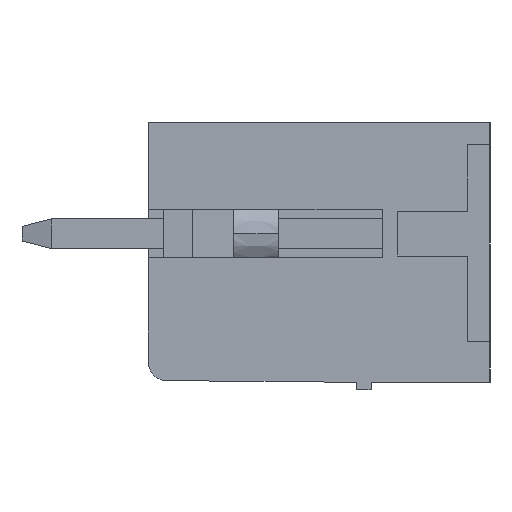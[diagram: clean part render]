
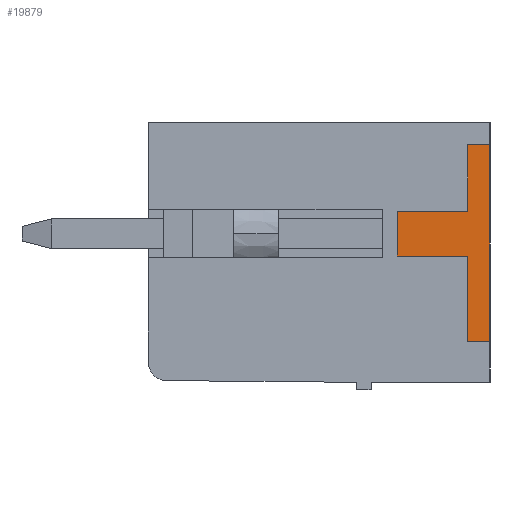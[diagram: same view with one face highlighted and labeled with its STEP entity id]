
A CAD part, left-side view. The second image highlights one B-rep face of the part: STEP entity #19879.
In plain terms, the highlighted planar face has unit normal (-1, 0, 0).
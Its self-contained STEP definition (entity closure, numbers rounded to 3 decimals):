
#156 = PLANE('',#157);
#157 = AXIS2_PLACEMENT_3D('',#158,#159,#160);
#158 = CARTESIAN_POINT('',(0.,0.,7.));
#159 = DIRECTION('',(0.,-1.,0.));
#160 = DIRECTION('',(0.,0.,-1.));
#184 = PLANE('',#185);
#185 = AXIS2_PLACEMENT_3D('',#186,#187,#188);
#186 = CARTESIAN_POINT('',(0.,0.,6.4));
#187 = DIRECTION('',(0.,0.,1.));
#188 = DIRECTION('',(0.,1.,0.));
#212 = PLANE('',#213);
#213 = AXIS2_PLACEMENT_3D('',#214,#215,#216);
#214 = CARTESIAN_POINT('',(0.,0.6,6.4));
#215 = DIRECTION('',(0.,1.,0.));
#216 = DIRECTION('',(0.,0.,-1.));
#240 = PLANE('',#241);
#241 = AXIS2_PLACEMENT_3D('',#242,#243,#244);
#242 = CARTESIAN_POINT('',(0.,0.6,4.6));
#243 = DIRECTION('',(0.,0.,1.));
#244 = DIRECTION('',(0.,1.,0.));
#268 = PLANE('',#269);
#269 = AXIS2_PLACEMENT_3D('',#270,#271,#272);
#270 = CARTESIAN_POINT('',(0.,2.5,4.6));
#271 = DIRECTION('',(0.,1.,0.));
#272 = DIRECTION('',(0.,0.,-1.));
#296 = PLANE('',#297);
#297 = AXIS2_PLACEMENT_3D('',#298,#299,#300);
#298 = CARTESIAN_POINT('',(0.,2.5,3.4));
#299 = DIRECTION('',(0.,0.,-1.));
#300 = DIRECTION('',(0.,-1.,0.));
#324 = PLANE('',#325);
#325 = AXIS2_PLACEMENT_3D('',#326,#327,#328);
#326 = CARTESIAN_POINT('',(0.,0.6,3.4));
#327 = DIRECTION('',(0.,1.,0.));
#328 = DIRECTION('',(0.,0.,-1.));
#352 = PLANE('',#353);
#353 = AXIS2_PLACEMENT_3D('',#354,#355,#356);
#354 = CARTESIAN_POINT('',(0.,0.6,1.1));
#355 = DIRECTION('',(0.,0.,-1.));
#356 = DIRECTION('',(0.,-1.,0.));
#6369 = VERTEX_POINT('',#6370);
#6370 = CARTESIAN_POINT('',(-0.2,0.,1.1));
#6391 = EDGE_CURVE('',#6369,#6392,#6394,.T.);
#6392 = VERTEX_POINT('',#6393);
#6393 = CARTESIAN_POINT('',(-0.2,0.,6.4));
#6394 = SURFACE_CURVE('',#6395,(#6399,#6406),.PCURVE_S1.);
#6395 = LINE('',#6396,#6397);
#6396 = CARTESIAN_POINT('',(-0.2,0.,1.1));
#6397 = VECTOR('',#6398,1.);
#6398 = DIRECTION('',(0.,0.,1.));
#6399 = PCURVE('',#156,#6400);
#6400 = DEFINITIONAL_REPRESENTATION('',(#6401),#6405);
#6401 = LINE('',#6402,#6403);
#6402 = CARTESIAN_POINT('',(5.9,-0.2));
#6403 = VECTOR('',#6404,1.);
#6404 = DIRECTION('',(-1.,0.));
#6405 = ( GEOMETRIC_REPRESENTATION_CONTEXT(2) 
PARAMETRIC_REPRESENTATION_CONTEXT() REPRESENTATION_CONTEXT('2D SPACE',''
  ) );
#6406 = PCURVE('',#6407,#6412);
#6407 = PLANE('',#6408);
#6408 = AXIS2_PLACEMENT_3D('',#6409,#6410,#6411);
#6409 = CARTESIAN_POINT('',(-0.2,0.,0.));
#6410 = DIRECTION('',(-1.,0.,0.));
#6411 = DIRECTION('',(0.,0.,1.));
#6412 = DEFINITIONAL_REPRESENTATION('',(#6413),#6417);
#6413 = LINE('',#6414,#6415);
#6414 = CARTESIAN_POINT('',(1.1,0.));
#6415 = VECTOR('',#6416,1.);
#6416 = DIRECTION('',(1.,0.));
#6417 = ( GEOMETRIC_REPRESENTATION_CONTEXT(2) 
PARAMETRIC_REPRESENTATION_CONTEXT() REPRESENTATION_CONTEXT('2D SPACE',''
  ) );
#19564 = VERTEX_POINT('',#19565);
#19565 = CARTESIAN_POINT('',(-0.2,0.6,1.1));
#19586 = EDGE_CURVE('',#19564,#6369,#19587,.T.);
#19587 = SURFACE_CURVE('',#19588,(#19592,#19599),.PCURVE_S1.);
#19588 = LINE('',#19589,#19590);
#19589 = CARTESIAN_POINT('',(-0.2,0.6,1.1));
#19590 = VECTOR('',#19591,1.);
#19591 = DIRECTION('',(0.,-1.,0.));
#19592 = PCURVE('',#352,#19593);
#19593 = DEFINITIONAL_REPRESENTATION('',(#19594),#19598);
#19594 = LINE('',#19595,#19596);
#19595 = CARTESIAN_POINT('',(0.,0.2));
#19596 = VECTOR('',#19597,1.);
#19597 = DIRECTION('',(1.,0.));
#19598 = ( GEOMETRIC_REPRESENTATION_CONTEXT(2) 
PARAMETRIC_REPRESENTATION_CONTEXT() REPRESENTATION_CONTEXT('2D SPACE',''
  ) );
#19599 = PCURVE('',#6407,#19600);
#19600 = DEFINITIONAL_REPRESENTATION('',(#19601),#19605);
#19601 = LINE('',#19602,#19603);
#19602 = CARTESIAN_POINT('',(1.1,0.6));
#19603 = VECTOR('',#19604,1.);
#19604 = DIRECTION('',(0.,-1.));
#19605 = ( GEOMETRIC_REPRESENTATION_CONTEXT(2) 
PARAMETRIC_REPRESENTATION_CONTEXT() REPRESENTATION_CONTEXT('2D SPACE',''
  ) );
#19613 = VERTEX_POINT('',#19614);
#19614 = CARTESIAN_POINT('',(-0.2,0.6,3.4));
#19635 = EDGE_CURVE('',#19613,#19564,#19636,.T.);
#19636 = SURFACE_CURVE('',#19637,(#19641,#19648),.PCURVE_S1.);
#19637 = LINE('',#19638,#19639);
#19638 = CARTESIAN_POINT('',(-0.2,0.6,3.4));
#19639 = VECTOR('',#19640,1.);
#19640 = DIRECTION('',(0.,0.,-1.));
#19641 = PCURVE('',#324,#19642);
#19642 = DEFINITIONAL_REPRESENTATION('',(#19643),#19647);
#19643 = LINE('',#19644,#19645);
#19644 = CARTESIAN_POINT('',(0.,0.2));
#19645 = VECTOR('',#19646,1.);
#19646 = DIRECTION('',(1.,0.));
#19647 = ( GEOMETRIC_REPRESENTATION_CONTEXT(2) 
PARAMETRIC_REPRESENTATION_CONTEXT() REPRESENTATION_CONTEXT('2D SPACE',''
  ) );
#19648 = PCURVE('',#6407,#19649);
#19649 = DEFINITIONAL_REPRESENTATION('',(#19650),#19654);
#19650 = LINE('',#19651,#19652);
#19651 = CARTESIAN_POINT('',(3.4,0.6));
#19652 = VECTOR('',#19653,1.);
#19653 = DIRECTION('',(-1.,0.));
#19654 = ( GEOMETRIC_REPRESENTATION_CONTEXT(2) 
PARAMETRIC_REPRESENTATION_CONTEXT() REPRESENTATION_CONTEXT('2D SPACE',''
  ) );
#19662 = VERTEX_POINT('',#19663);
#19663 = CARTESIAN_POINT('',(-0.2,2.5,3.4));
#19684 = EDGE_CURVE('',#19662,#19613,#19685,.T.);
#19685 = SURFACE_CURVE('',#19686,(#19690,#19697),.PCURVE_S1.);
#19686 = LINE('',#19687,#19688);
#19687 = CARTESIAN_POINT('',(-0.2,2.5,3.4));
#19688 = VECTOR('',#19689,1.);
#19689 = DIRECTION('',(0.,-1.,0.));
#19690 = PCURVE('',#296,#19691);
#19691 = DEFINITIONAL_REPRESENTATION('',(#19692),#19696);
#19692 = LINE('',#19693,#19694);
#19693 = CARTESIAN_POINT('',(0.,0.2));
#19694 = VECTOR('',#19695,1.);
#19695 = DIRECTION('',(1.,0.));
#19696 = ( GEOMETRIC_REPRESENTATION_CONTEXT(2) 
PARAMETRIC_REPRESENTATION_CONTEXT() REPRESENTATION_CONTEXT('2D SPACE',''
  ) );
#19697 = PCURVE('',#6407,#19698);
#19698 = DEFINITIONAL_REPRESENTATION('',(#19699),#19703);
#19699 = LINE('',#19700,#19701);
#19700 = CARTESIAN_POINT('',(3.4,2.5));
#19701 = VECTOR('',#19702,1.);
#19702 = DIRECTION('',(0.,-1.));
#19703 = ( GEOMETRIC_REPRESENTATION_CONTEXT(2) 
PARAMETRIC_REPRESENTATION_CONTEXT() REPRESENTATION_CONTEXT('2D SPACE',''
  ) );
#19711 = VERTEX_POINT('',#19712);
#19712 = CARTESIAN_POINT('',(-0.2,2.5,4.6));
#19733 = EDGE_CURVE('',#19711,#19662,#19734,.T.);
#19734 = SURFACE_CURVE('',#19735,(#19739,#19746),.PCURVE_S1.);
#19735 = LINE('',#19736,#19737);
#19736 = CARTESIAN_POINT('',(-0.2,2.5,4.6));
#19737 = VECTOR('',#19738,1.);
#19738 = DIRECTION('',(0.,0.,-1.));
#19739 = PCURVE('',#268,#19740);
#19740 = DEFINITIONAL_REPRESENTATION('',(#19741),#19745);
#19741 = LINE('',#19742,#19743);
#19742 = CARTESIAN_POINT('',(0.,0.2));
#19743 = VECTOR('',#19744,1.);
#19744 = DIRECTION('',(1.,0.));
#19745 = ( GEOMETRIC_REPRESENTATION_CONTEXT(2) 
PARAMETRIC_REPRESENTATION_CONTEXT() REPRESENTATION_CONTEXT('2D SPACE',''
  ) );
#19746 = PCURVE('',#6407,#19747);
#19747 = DEFINITIONAL_REPRESENTATION('',(#19748),#19752);
#19748 = LINE('',#19749,#19750);
#19749 = CARTESIAN_POINT('',(4.6,2.5));
#19750 = VECTOR('',#19751,1.);
#19751 = DIRECTION('',(-1.,0.));
#19752 = ( GEOMETRIC_REPRESENTATION_CONTEXT(2) 
PARAMETRIC_REPRESENTATION_CONTEXT() REPRESENTATION_CONTEXT('2D SPACE',''
  ) );
#19760 = VERTEX_POINT('',#19761);
#19761 = CARTESIAN_POINT('',(-0.2,0.6,4.6));
#19782 = EDGE_CURVE('',#19760,#19711,#19783,.T.);
#19783 = SURFACE_CURVE('',#19784,(#19788,#19795),.PCURVE_S1.);
#19784 = LINE('',#19785,#19786);
#19785 = CARTESIAN_POINT('',(-0.2,0.6,4.6));
#19786 = VECTOR('',#19787,1.);
#19787 = DIRECTION('',(0.,1.,0.));
#19788 = PCURVE('',#240,#19789);
#19789 = DEFINITIONAL_REPRESENTATION('',(#19790),#19794);
#19790 = LINE('',#19791,#19792);
#19791 = CARTESIAN_POINT('',(0.,0.2));
#19792 = VECTOR('',#19793,1.);
#19793 = DIRECTION('',(1.,0.));
#19794 = ( GEOMETRIC_REPRESENTATION_CONTEXT(2) 
PARAMETRIC_REPRESENTATION_CONTEXT() REPRESENTATION_CONTEXT('2D SPACE',''
  ) );
#19795 = PCURVE('',#6407,#19796);
#19796 = DEFINITIONAL_REPRESENTATION('',(#19797),#19801);
#19797 = LINE('',#19798,#19799);
#19798 = CARTESIAN_POINT('',(4.6,0.6));
#19799 = VECTOR('',#19800,1.);
#19800 = DIRECTION('',(0.,1.));
#19801 = ( GEOMETRIC_REPRESENTATION_CONTEXT(2) 
PARAMETRIC_REPRESENTATION_CONTEXT() REPRESENTATION_CONTEXT('2D SPACE',''
  ) );
#19809 = VERTEX_POINT('',#19810);
#19810 = CARTESIAN_POINT('',(-0.2,0.6,6.4));
#19831 = EDGE_CURVE('',#19809,#19760,#19832,.T.);
#19832 = SURFACE_CURVE('',#19833,(#19837,#19844),.PCURVE_S1.);
#19833 = LINE('',#19834,#19835);
#19834 = CARTESIAN_POINT('',(-0.2,0.6,6.4));
#19835 = VECTOR('',#19836,1.);
#19836 = DIRECTION('',(0.,0.,-1.));
#19837 = PCURVE('',#212,#19838);
#19838 = DEFINITIONAL_REPRESENTATION('',(#19839),#19843);
#19839 = LINE('',#19840,#19841);
#19840 = CARTESIAN_POINT('',(0.,0.2));
#19841 = VECTOR('',#19842,1.);
#19842 = DIRECTION('',(1.,0.));
#19843 = ( GEOMETRIC_REPRESENTATION_CONTEXT(2) 
PARAMETRIC_REPRESENTATION_CONTEXT() REPRESENTATION_CONTEXT('2D SPACE',''
  ) );
#19844 = PCURVE('',#6407,#19845);
#19845 = DEFINITIONAL_REPRESENTATION('',(#19846),#19850);
#19846 = LINE('',#19847,#19848);
#19847 = CARTESIAN_POINT('',(6.4,0.6));
#19848 = VECTOR('',#19849,1.);
#19849 = DIRECTION('',(-1.,0.));
#19850 = ( GEOMETRIC_REPRESENTATION_CONTEXT(2) 
PARAMETRIC_REPRESENTATION_CONTEXT() REPRESENTATION_CONTEXT('2D SPACE',''
  ) );
#19858 = EDGE_CURVE('',#6392,#19809,#19859,.T.);
#19859 = SURFACE_CURVE('',#19860,(#19864,#19871),.PCURVE_S1.);
#19860 = LINE('',#19861,#19862);
#19861 = CARTESIAN_POINT('',(-0.2,0.,6.4));
#19862 = VECTOR('',#19863,1.);
#19863 = DIRECTION('',(0.,1.,0.));
#19864 = PCURVE('',#184,#19865);
#19865 = DEFINITIONAL_REPRESENTATION('',(#19866),#19870);
#19866 = LINE('',#19867,#19868);
#19867 = CARTESIAN_POINT('',(0.,0.2));
#19868 = VECTOR('',#19869,1.);
#19869 = DIRECTION('',(1.,0.));
#19870 = ( GEOMETRIC_REPRESENTATION_CONTEXT(2) 
PARAMETRIC_REPRESENTATION_CONTEXT() REPRESENTATION_CONTEXT('2D SPACE',''
  ) );
#19871 = PCURVE('',#6407,#19872);
#19872 = DEFINITIONAL_REPRESENTATION('',(#19873),#19877);
#19873 = LINE('',#19874,#19875);
#19874 = CARTESIAN_POINT('',(6.4,0.));
#19875 = VECTOR('',#19876,1.);
#19876 = DIRECTION('',(0.,1.));
#19877 = ( GEOMETRIC_REPRESENTATION_CONTEXT(2) 
PARAMETRIC_REPRESENTATION_CONTEXT() REPRESENTATION_CONTEXT('2D SPACE',''
  ) );
#19879 = ADVANCED_FACE('',(#19880),#6407,.T.);
#19880 = FACE_BOUND('',#19881,.F.);
#19881 = EDGE_LOOP('',(#19882,#19883,#19884,#19885,#19886,#19887,#19888,
    #19889));
#19882 = ORIENTED_EDGE('',*,*,#19858,.F.);
#19883 = ORIENTED_EDGE('',*,*,#6391,.F.);
#19884 = ORIENTED_EDGE('',*,*,#19586,.F.);
#19885 = ORIENTED_EDGE('',*,*,#19635,.F.);
#19886 = ORIENTED_EDGE('',*,*,#19684,.F.);
#19887 = ORIENTED_EDGE('',*,*,#19733,.F.);
#19888 = ORIENTED_EDGE('',*,*,#19782,.F.);
#19889 = ORIENTED_EDGE('',*,*,#19831,.F.);
